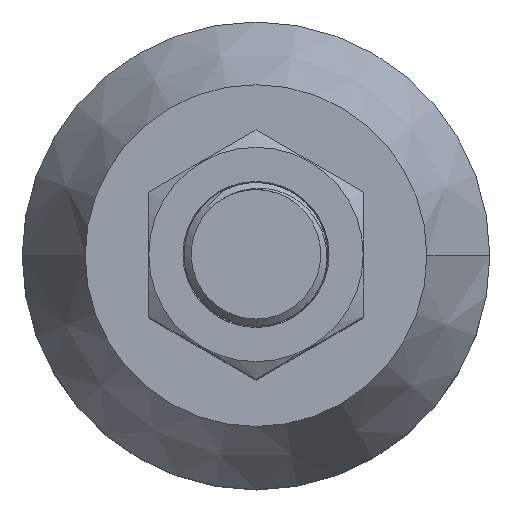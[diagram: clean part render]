
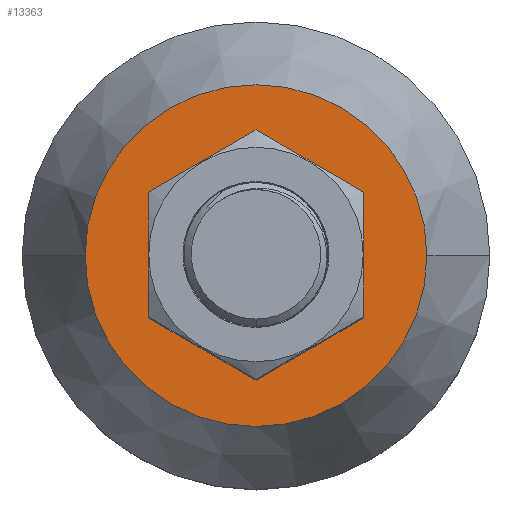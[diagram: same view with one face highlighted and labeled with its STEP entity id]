
A CAD part, top view. The second image highlights one B-rep face of the part: STEP entity #13363.
In plain terms, the highlighted planar face has unit normal (0, 0, 1).
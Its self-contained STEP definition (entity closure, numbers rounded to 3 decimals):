
#14 = DIRECTION ( 'NONE',  ( 0., 0., -1. ) ) ;
#139 = DIRECTION ( 'NONE',  ( -1., 0., 0. ) ) ;
#654 = AXIS2_PLACEMENT_3D ( 'NONE', #7363, #6348, #139 ) ;
#884 = DIRECTION ( 'NONE',  ( 0., 0., -1. ) ) ;
#1293 = CARTESIAN_POINT ( 'NONE',  ( 23.75, 0., 42. ) ) ;
#1668 = ORIENTED_EDGE ( 'NONE', *, *, #8044, .F. ) ;
#2004 = VERTEX_POINT ( 'NONE', #1293 ) ;
#3072 = FACE_OUTER_BOUND ( 'NONE', #10711, .T. ) ;
#3236 = PLANE ( 'NONE',  #654 ) ;
#4143 = CIRCLE ( 'NONE', #13024, 23.75 ) ;
#4420 = CIRCLE ( 'NONE', #4817, 23.75 ) ;
#4817 = AXIS2_PLACEMENT_3D ( 'NONE', #7113, #884, #8139 ) ;
#6232 = CARTESIAN_POINT ( 'NONE',  ( 0., 0., 42. ) ) ;
#6348 = DIRECTION ( 'NONE',  ( 0., 0., -1. ) ) ;
#7113 = CARTESIAN_POINT ( 'NONE',  ( 0., 0., 42. ) ) ;
#7283 = DIRECTION ( 'NONE',  ( -1., 0., 0. ) ) ;
#7363 = CARTESIAN_POINT ( 'NONE',  ( 23.75, 0., 42. ) ) ;
#8044 = EDGE_CURVE ( 'NONE', #2004, #12317, #4143, .T. ) ;
#8139 = DIRECTION ( 'NONE',  ( -1., 0., 0. ) ) ;
#8937 = CARTESIAN_POINT ( 'NONE',  ( -23.75, 0., 42. ) ) ;
#9987 = ORIENTED_EDGE ( 'NONE', *, *, #11237, .F. ) ;
#10711 = EDGE_LOOP ( 'NONE', ( #9987, #1668 ) ) ;
#11237 = EDGE_CURVE ( 'NONE', #12317, #2004, #4420, .T. ) ;
#12317 = VERTEX_POINT ( 'NONE', #8937 ) ;
#13024 = AXIS2_PLACEMENT_3D ( 'NONE', #6232, #14, #7283 ) ;
#13363 = ADVANCED_FACE ( 'NONE', ( #3072 ), #3236, .F. ) ;
